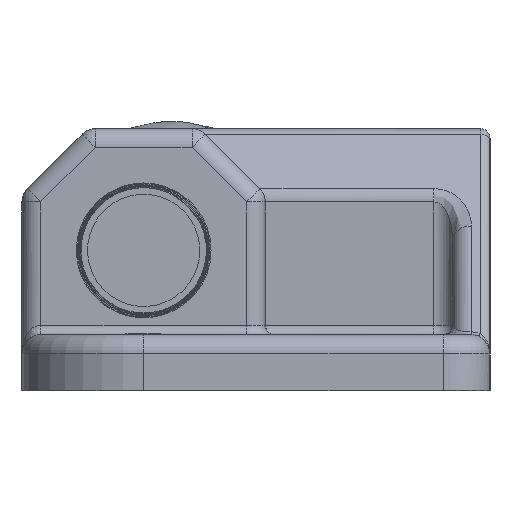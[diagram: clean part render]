
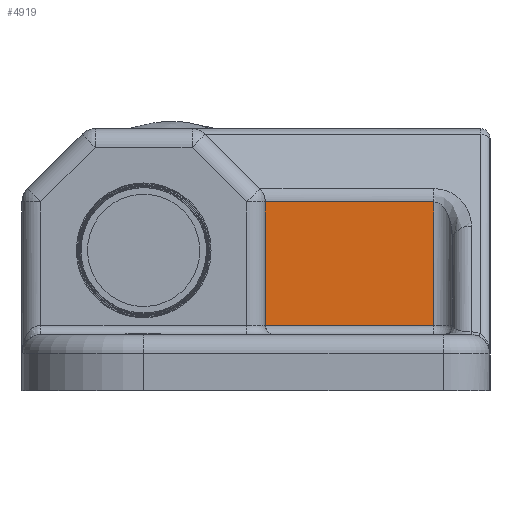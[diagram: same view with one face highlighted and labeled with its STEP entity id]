
A CAD part, left-side view. The second image highlights one B-rep face of the part: STEP entity #4919.
In plain terms, the highlighted planar face has unit normal (-1, 0, 0).
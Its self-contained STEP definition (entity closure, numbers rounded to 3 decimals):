
#673 = LINE ( 'NONE', #2791, #678 ) ;
#678 = VECTOR ( 'NONE', #2792, 1000. ) ;
#681 = LINE ( 'NONE', #2797, #684 ) ;
#684 = VECTOR ( 'NONE', #2798, 1000. ) ;
#735 = LINE ( 'NONE', #2903, #737 ) ;
#737 = VECTOR ( 'NONE', #2904, 1000. ) ;
#974 = ORIENTED_EDGE ( 'NONE', *, *, #6589, .T. ) ;
#975 = ORIENTED_EDGE ( 'NONE', *, *, #5237, .T. ) ;
#981 = ORIENTED_EDGE ( 'NONE', *, *, #6633, .T. ) ;
#991 = ORIENTED_EDGE ( 'NONE', *, *, #6592, .F. ) ;
#2073 = CARTESIAN_POINT ( 'NONE',  ( 10., 3., 10.086 ) ) ;
#2153 = FACE_OUTER_BOUND ( 'NONE', #5814, .T. ) ;
#2430 = DIRECTION ( 'NONE',  ( 0., -1., 0. ) ) ;
#2437 = CARTESIAN_POINT ( 'NONE',  ( 10., 3., 3.5 ) ) ;
#2791 = CARTESIAN_POINT ( 'NONE',  ( 10., 3., 10.5 ) ) ;
#2792 = DIRECTION ( 'NONE',  ( 0., 0., 1. ) ) ;
#2797 = CARTESIAN_POINT ( 'NONE',  ( 10., 12., 10.5 ) ) ;
#2798 = DIRECTION ( 'NONE',  ( 0., 0., 1. ) ) ;
#2903 = CARTESIAN_POINT ( 'NONE',  ( 10., 12., 10.086 ) ) ;
#2904 = DIRECTION ( 'NONE',  ( 0., 1., 0. ) ) ;
#3523 = VERTEX_POINT ( 'NONE', #2073 ) ;
#3584 = VERTEX_POINT ( 'NONE', #4202 ) ;
#3586 = VERTEX_POINT ( 'NONE', #4204 ) ;
#3594 = VERTEX_POINT ( 'NONE', #4212 ) ;
#3996 = PLANE ( 'NONE',  #5446 ) ;
#4006 = CARTESIAN_POINT ( 'NONE',  ( 10., 25., -29.155 ) ) ;
#4007 = DIRECTION ( 'NONE',  ( 1., 0., 0. ) ) ;
#4008 = DIRECTION ( 'NONE',  ( 0., 0., -1. ) ) ;
#4202 = CARTESIAN_POINT ( 'NONE',  ( 10., 12., 3.5 ) ) ;
#4204 = CARTESIAN_POINT ( 'NONE',  ( 10., 3., 3.5 ) ) ;
#4212 = CARTESIAN_POINT ( 'NONE',  ( 10., 12., 10.086 ) ) ;
#4919 = ADVANCED_FACE ( 'NONE', ( #2153 ), #3996, .F. ) ;
#5237 = EDGE_CURVE ( 'NONE', #3584, #3586, #6683, .T. ) ;
#5446 = AXIS2_PLACEMENT_3D ( 'NONE', #4006, #4007, #4008 ) ;
#5814 = EDGE_LOOP ( 'NONE', ( #991, #975, #974, #981 ) ) ;
#6589 = EDGE_CURVE ( 'NONE', #3586, #3523, #673, .T. ) ;
#6592 = EDGE_CURVE ( 'NONE', #3584, #3594, #681, .T. ) ;
#6633 = EDGE_CURVE ( 'NONE', #3523, #3594, #735, .T. ) ;
#6683 = LINE ( 'NONE', #2437, #6690 ) ;
#6690 = VECTOR ( 'NONE', #2430, 1000. ) ;
